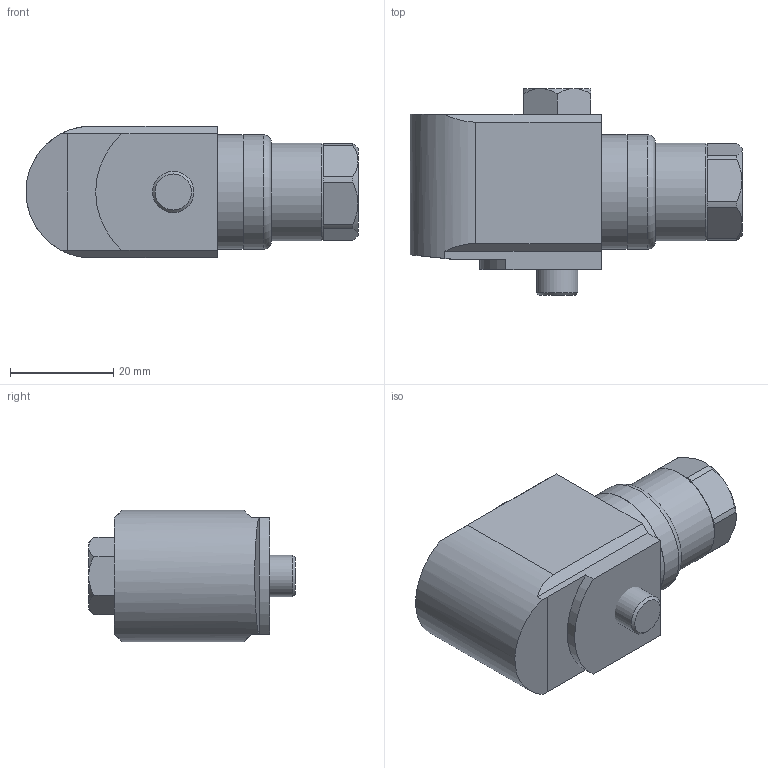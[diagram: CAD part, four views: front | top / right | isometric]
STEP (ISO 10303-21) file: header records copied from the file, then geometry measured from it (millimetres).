
FILE_DESCRIPTION(/* description */ (''),/* implementation_level */ '2;1');
FILE_NAME(/* name */ 'Z:\Engineering\Drawings\3D Library\Assemblies\Website\Premium Side\HS-150 Side Silicon\HS-150SXXX0708.stp',/* time_stamp */ '2023-03-12T13:47:52+00:00',/* author */ ('Ricardo.Peneda'),/* organization */ (''),/* preprocessor_version */ 'ST-DEVELOPER v18.1',/* originating_system */ 'Autodesk Inventor 2021',/* authorisation */ '');
FILE_SCHEMA (('AUTOMOTIVE_DESIGN { 1 0 10303 214 3 1 1 }'));
Length unit declared in the file: inch
Products named in the file (1): HS-150SXXX0708_Shrinkwrap_1
Bounding box: 64.25 x 40 x 25.5 mm (x, y, z)
Volume: 26939.5 mm3; surface area: 12642.7 mm2
Topology: 5 solids, 5 shells, 94 faces, 225 edges, 156 vertices
Faces by surface type: plane 48, cylinder 28, cone 17, torus 1
Full cylindrical faces by diameter (mm): 6.4 x1, 6.647 x1, 8 x1, 9 x1, 10 x1, 12 x2, 13 x1, 14 x1, 14.95 x1, 15 x2, 15.34 x1, 15.35 x1, 18 x1, 19 x1, 19.95 x1, 20 x1, 22.2 x2
Entity records: 2940 total; most frequent: CARTESIAN_POINT 526, DIRECTION 506, ORIENTED_EDGE 450, EDGE_CURVE 225, AXIS2_PLACEMENT_3D 210, VERTEX_POINT 156, EDGE_LOOP 115, CIRCLE 110
